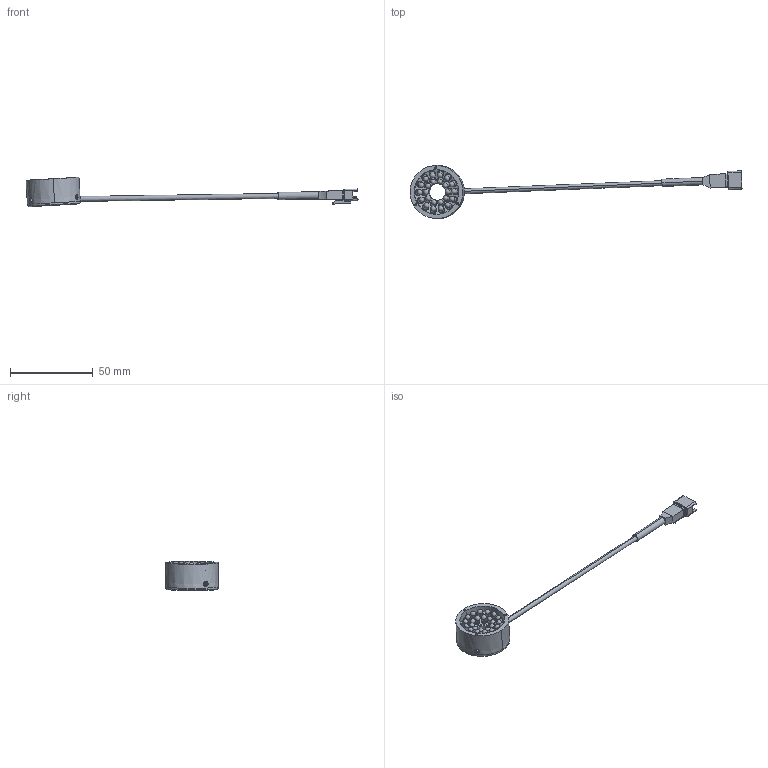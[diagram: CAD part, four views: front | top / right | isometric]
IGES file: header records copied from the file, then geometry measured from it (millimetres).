
Start section: 3D InterOp IGES (v. 2019 1.0.2), Spatial Corp. Copyright (c) 1999-2017.
Global section: file name: VBA-3210_DRAWING_3D.iges; native system: Spatial Corp.; preprocessor: 3D InterOp ACIS/IGES; author: Noname; organization: Noname; date: 20230915.164032; units: millimetre
Bounding box: 200.2 x 32.02 x 17.73 mm (x, y, z)
Surface area: 11126.5 mm2 (no closed solid volume)
Topology: 0 solids, 0 shells, 373 faces, 1946 edges, 1830 vertices
Faces by surface type: revolution 198, extrusion 165, bspline 10
